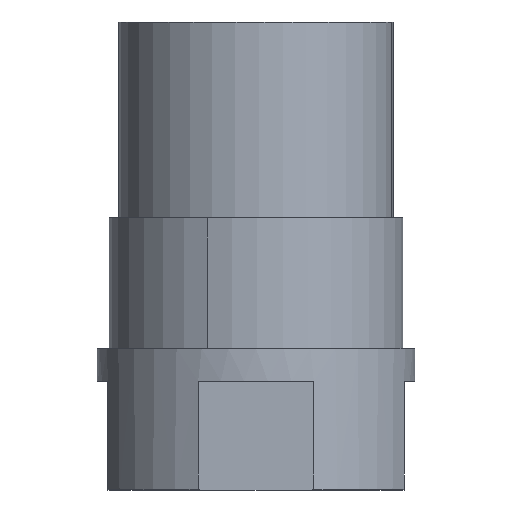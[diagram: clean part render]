
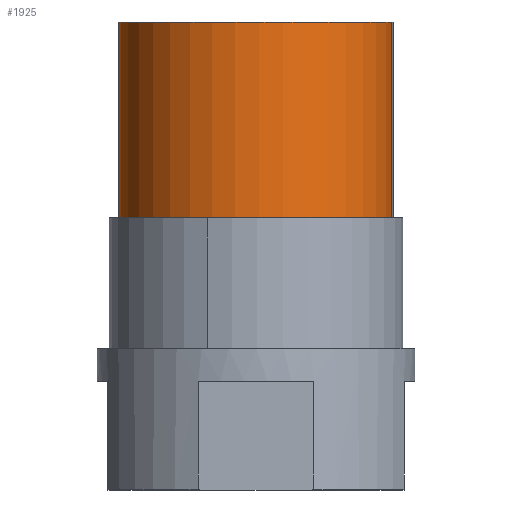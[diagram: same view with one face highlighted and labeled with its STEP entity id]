
A CAD part, front view. The second image highlights one B-rep face of the part: STEP entity #1925.
In plain terms, the highlighted cylindrical face has radius 31.5 mm (diameter 63 mm), a partial arc.
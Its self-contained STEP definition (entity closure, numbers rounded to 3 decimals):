
#209 = ORIENTED_EDGE ( 'NONE', *, *, #1308, .F. ) ;
#210 = ORIENTED_EDGE ( 'NONE', *, *, #1311, .F. ) ;
#211 = ORIENTED_EDGE ( 'NONE', *, *, #1310, .T. ) ;
#212 = ORIENTED_EDGE ( 'NONE', *, *, #1313, .T. ) ;
#998 = DIRECTION ( 'NONE',  ( 0., 0., -1. ) ) ;
#1009 = CARTESIAN_POINT ( 'NONE',  ( 0., 0., 45. ) ) ;
#1017 = DIRECTION ( 'NONE',  ( -0.988, 0.153, 0. ) ) ;
#1087 = LINE ( 'NONE', #1546, #1091 ) ;
#1090 = CIRCLE ( 'NONE', #2336, 31.5 ) ;
#1091 = VECTOR ( 'NONE', #1544, 1000. ) ;
#1092 = LINE ( 'NONE', #1550, #1094 ) ;
#1094 = VECTOR ( 'NONE', #1545, 1000. ) ;
#1096 = CIRCLE ( 'NONE', #2338, 31.5 ) ;
#1308 = EDGE_CURVE ( 'NONE', #2464, #2468, #1087, .T. ) ;
#1310 = EDGE_CURVE ( 'NONE', #2467, #2469, #1092, .T. ) ;
#1311 = EDGE_CURVE ( 'NONE', #2467, #2464, #1090, .T. ) ;
#1313 = EDGE_CURVE ( 'NONE', #2469, #2468, #1096, .T. ) ;
#1544 = DIRECTION ( 'NONE',  ( 0., 0., -1. ) ) ;
#1545 = DIRECTION ( 'NONE',  ( 0., 0., -1. ) ) ;
#1546 = CARTESIAN_POINT ( 'NONE',  ( 31.127, -4.835, 45. ) ) ;
#1550 = CARTESIAN_POINT ( 'NONE',  ( -31.127, 4.835, 45. ) ) ;
#1554 = CARTESIAN_POINT ( 'NONE',  ( 0., 0., 45. ) ) ;
#1555 = DIRECTION ( 'NONE',  ( 0., 0., 1. ) ) ;
#1556 = DIRECTION ( 'NONE',  ( 0.988, -0.153, 0. ) ) ;
#1560 = CARTESIAN_POINT ( 'NONE',  ( 0., 0., -30. ) ) ;
#1561 = DIRECTION ( 'NONE',  ( 0., 0., 1. ) ) ;
#1562 = DIRECTION ( 'NONE',  ( 0.988, -0.153, 0. ) ) ;
#1713 = CARTESIAN_POINT ( 'NONE',  ( -31.127, 4.835, 45. ) ) ;
#1717 = CARTESIAN_POINT ( 'NONE',  ( 31.127, -4.835, 45. ) ) ;
#1719 = CARTESIAN_POINT ( 'NONE',  ( 31.127, -4.835, -30. ) ) ;
#1720 = CARTESIAN_POINT ( 'NONE',  ( -31.127, 4.835, -30. ) ) ;
#1739 = AXIS2_PLACEMENT_3D ( 'NONE', #1009, #998, #1017 ) ;
#1860 = FACE_OUTER_BOUND ( 'NONE', #2374, .T. ) ;
#1868 = CYLINDRICAL_SURFACE ( 'NONE', #1739, 31.5 ) ;
#1925 = ADVANCED_FACE ( 'NONE', ( #1860 ), #1868, .T. ) ;
#2336 = AXIS2_PLACEMENT_3D ( 'NONE', #1554, #1555, #1556 ) ;
#2338 = AXIS2_PLACEMENT_3D ( 'NONE', #1560, #1561, #1562 ) ;
#2374 = EDGE_LOOP ( 'NONE', ( #209, #210, #211, #212 ) ) ;
#2464 = VERTEX_POINT ( 'NONE', #1717 ) ;
#2467 = VERTEX_POINT ( 'NONE', #1713 ) ;
#2468 = VERTEX_POINT ( 'NONE', #1719 ) ;
#2469 = VERTEX_POINT ( 'NONE', #1720 ) ;
